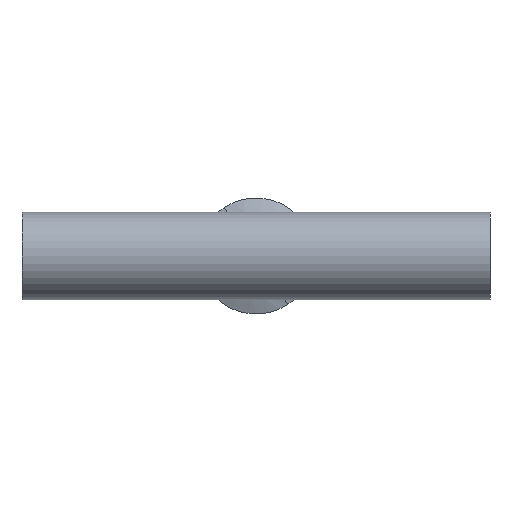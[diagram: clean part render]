
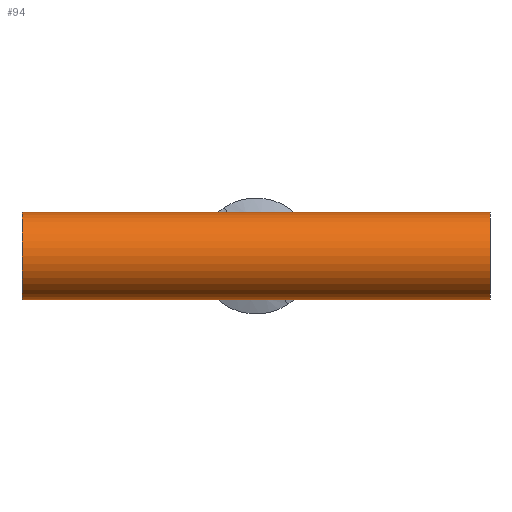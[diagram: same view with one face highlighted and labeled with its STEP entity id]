
A CAD part, front view. The second image highlights one B-rep face of the part: STEP entity #94.
In plain terms, the highlighted cylindrical face has radius 9.525 mm (diameter 19.05 mm), a partial arc.
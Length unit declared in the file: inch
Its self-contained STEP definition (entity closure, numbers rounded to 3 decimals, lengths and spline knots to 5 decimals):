
#6 = AXIS2_PLACEMENT_3D ( 'NONE', #540, #728, #49 ) ;
#20 = VERTEX_POINT ( 'NONE', #1014 ) ;
#37 = EDGE_CURVE ( 'NONE', #20, #495, #199, .T. ) ;
#45 = VECTOR ( 'NONE', #313, 39.37008 ) ;
#49 = DIRECTION ( 'NONE',  ( 0., 0., -1. ) ) ;
#55 = DIRECTION ( 'NONE',  ( 1., 0., 0. ) ) ;
#72 = CARTESIAN_POINT ( 'NONE',  ( -2., 0., 0. ) ) ;
#78 = LINE ( 'NONE', #813, #1026 ) ;
#80 = CIRCLE ( 'NONE', #757, 0.375 ) ;
#94 = ADVANCED_FACE ( 'NONE', ( #475 ), #713, .T. ) ;
#129 = ORIENTED_EDGE ( 'NONE', *, *, #761, .T. ) ;
#169 = EDGE_CURVE ( 'NONE', #603, #20, #372, .T. ) ;
#199 = CIRCLE ( 'NONE', #6, 0.375 ) ;
#300 = DIRECTION ( 'NONE',  ( 0., 0., -1. ) ) ;
#313 = DIRECTION ( 'NONE',  ( 1., 0., 0. ) ) ;
#355 = ORIENTED_EDGE ( 'NONE', *, *, #169, .F. ) ;
#365 = ORIENTED_EDGE ( 'NONE', *, *, #37, .F. ) ;
#372 = LINE ( 'NONE', #630, #45 ) ;
#475 = FACE_OUTER_BOUND ( 'NONE', #678, .T. ) ;
#482 = DIRECTION ( 'NONE',  ( 1., 0., 0. ) ) ;
#495 = VERTEX_POINT ( 'NONE', #699 ) ;
#520 = CARTESIAN_POINT ( 'NONE',  ( -2., 0., -0.375 ) ) ;
#540 = CARTESIAN_POINT ( 'NONE',  ( 2., 0., 0. ) ) ;
#603 = VERTEX_POINT ( 'NONE', #703 ) ;
#609 = AXIS2_PLACEMENT_3D ( 'NONE', #1032, #55, #300 ) ;
#613 = ORIENTED_EDGE ( 'NONE', *, *, #791, .T. ) ;
#630 = CARTESIAN_POINT ( 'NONE',  ( -2., 0., 0.375 ) ) ;
#678 = EDGE_LOOP ( 'NONE', ( #355, #613, #129, #365 ) ) ;
#699 = CARTESIAN_POINT ( 'NONE',  ( 2., 0., -0.375 ) ) ;
#703 = CARTESIAN_POINT ( 'NONE',  ( -2., 0., 0.375 ) ) ;
#713 = CYLINDRICAL_SURFACE ( 'NONE', #609, 0.375 ) ;
#722 = DIRECTION ( 'NONE',  ( 1., 0., 0. ) ) ;
#728 = DIRECTION ( 'NONE',  ( 1., 0., 0. ) ) ;
#757 = AXIS2_PLACEMENT_3D ( 'NONE', #72, #482, #818 ) ;
#761 = EDGE_CURVE ( 'NONE', #1029, #495, #78, .T. ) ;
#791 = EDGE_CURVE ( 'NONE', #603, #1029, #80, .T. ) ;
#813 = CARTESIAN_POINT ( 'NONE',  ( -2., 0., -0.375 ) ) ;
#818 = DIRECTION ( 'NONE',  ( 0., 0., -1. ) ) ;
#1014 = CARTESIAN_POINT ( 'NONE',  ( 2., 0., 0.375 ) ) ;
#1026 = VECTOR ( 'NONE', #722, 39.37008 ) ;
#1029 = VERTEX_POINT ( 'NONE', #520 ) ;
#1032 = CARTESIAN_POINT ( 'NONE',  ( -2., 0., 0. ) ) ;
